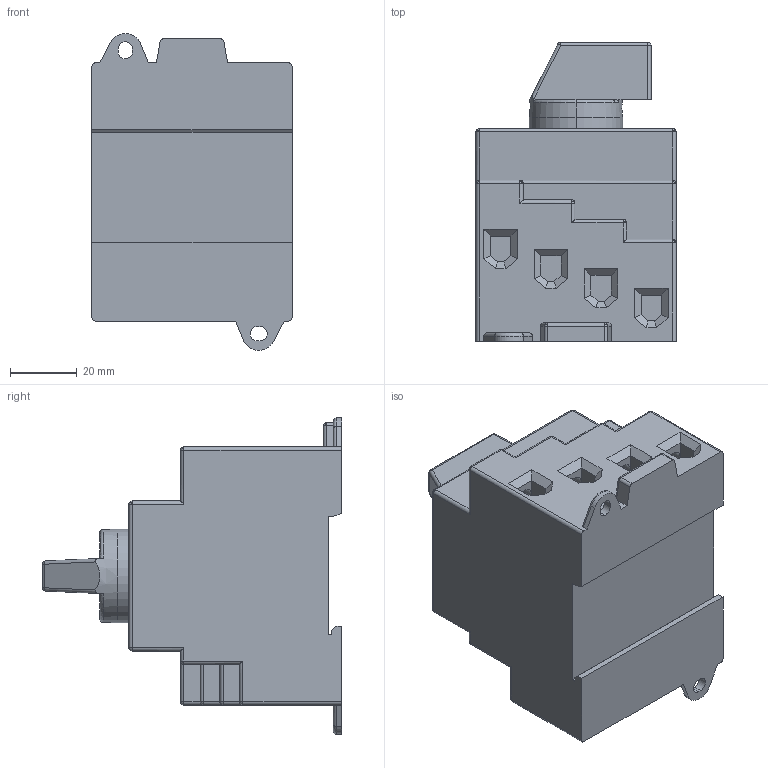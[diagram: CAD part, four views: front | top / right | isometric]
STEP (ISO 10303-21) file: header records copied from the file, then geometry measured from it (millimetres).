
FILE_DESCRIPTION (( 'STEP AP203' ), '1' );
FILE_NAME ('LS32 SMA A4.STEP', '2014-05-20T06:49:39', ( '' ), ( '' ), 'SwSTEP 2.0', 'SolidWorks 2014', '' );
FILE_SCHEMA (( 'CONFIG_CONTROL_DESIGN' ));
Length unit declared in the file: millimetre
Products named in the file (3): Dummie Schalterkörper SMA_1; G2_48x48_nur griff; LS32 SMA A4
Assembly tree (2 placements, depth 2):
  LS32 SMA A4
    Dummie Schalterkörper SMA_1
    G2_48x48_nur griff
Bounding box: 60 x 89.7 x 94.99 mm (x, y, z)
Volume: 247058.1 mm3; surface area: 34944.7 mm2
Topology: 2 solids, 3 shells, 317 faces, 801 edges, 473 vertices
Faces by surface type: plane 176, cylinder 85, bspline 47, sphere 4, torus 3, cone 2
Entity records: 10142 total; most frequent: CARTESIAN_POINT 2515, ORIENTED_EDGE 1566, DIRECTION 1502, EDGE_CURVE 783, LINE 506, VECTOR 506, AXIS2_PLACEMENT_3D 498, VERTEX_POINT 473
